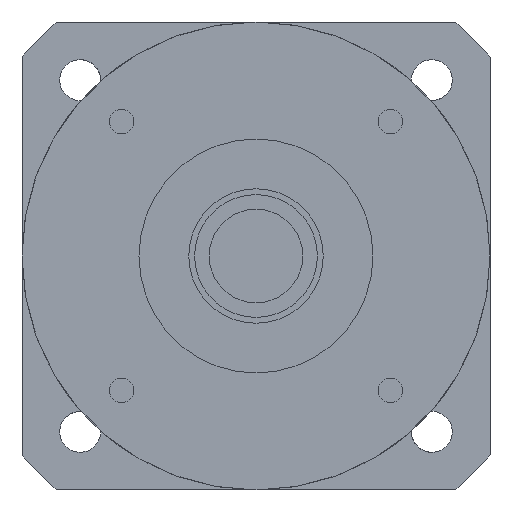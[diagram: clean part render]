
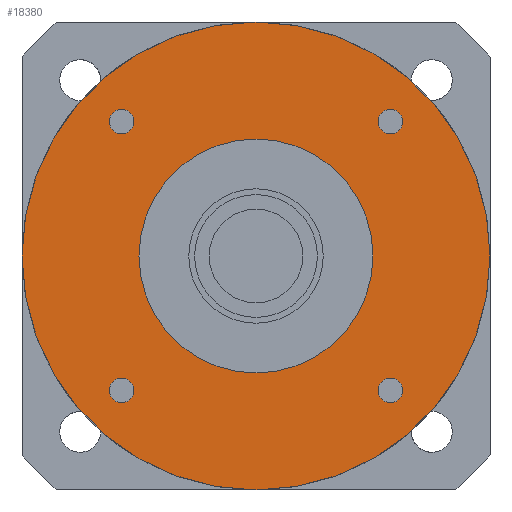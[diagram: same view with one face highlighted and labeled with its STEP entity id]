
A CAD part, left-side view. The second image highlights one B-rep face of the part: STEP entity #18380.
In plain terms, the highlighted planar face has unit normal (-1, 0, 0) as drawn and (0, 0, -1) by its records, which use the part's own axes.
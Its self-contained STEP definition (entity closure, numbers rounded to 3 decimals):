
#14100=CARTESIAN_POINT('',(-25.081,-22.981,-42.));
#14110=VERTEX_POINT('',#14100);
#14290=CARTESIAN_POINT('',(-20.881,-22.981,-42.));
#14300=VERTEX_POINT('',#14290);
#14330=CARTESIAN_POINT('',(-22.981,-22.981,-42.));
#14340=DIRECTION('',(0.,0.,-1.));
#14350=DIRECTION('',(1.,0.,0.));
#14360=AXIS2_PLACEMENT_3D('',#14330,#14340,#14350);
#14370=CIRCLE('',#14360,2.1);
#14380=EDGE_CURVE('',#14110,#14300,#14370,.T.);
#17400=CARTESIAN_POINT('',(-40.,0.,-42.));
#17410=VERTEX_POINT('',#17400);
#17440=CARTESIAN_POINT('',(0.,0.,-42.));
#17450=DIRECTION('',(0.,0.,-1.));
#17460=DIRECTION('',(1.,0.,0.));
#17470=AXIS2_PLACEMENT_3D('',#17440,#17450,#17460);
#17480=CIRCLE('',#17470,40.);
#17490=CARTESIAN_POINT('',(40.,0.,-42.));
#17500=VERTEX_POINT('',#17490);
#17510=EDGE_CURVE('',#17410,#17500,#17480,.T.);
#17630=CARTESIAN_POINT('',(0.,0.,-42.));
#17640=DIRECTION('',(0.,0.,1.));
#17650=DIRECTION('',(1.,0.,0.));
#17660=AXIS2_PLACEMENT_3D('',#17630,#17640,#17650);
#17670=PLANE('',#17660);
#17680=CARTESIAN_POINT('',(-22.981,22.981,-42.));
#17690=DIRECTION('',(0.,0.,-1.));
#17700=DIRECTION('',(1.,0.,0.));
#17710=AXIS2_PLACEMENT_3D('',#17680,#17690,#17700);
#17720=CIRCLE('',#17710,2.1);
#17730=CARTESIAN_POINT('',(-20.881,22.981,-42.));
#17740=VERTEX_POINT('',#17730);
#17750=CARTESIAN_POINT('',(-25.081,22.981,-42.));
#17760=VERTEX_POINT('',#17750);
#17770=EDGE_CURVE('',#17740,#17760,#17720,.T.);
#17780=ORIENTED_EDGE('',*,*,#17770,.F.);
#17790=EDGE_CURVE('',#17760,#17740,#17720,.T.);
#17800=ORIENTED_EDGE('',*,*,#17790,.F.);
#17810=EDGE_LOOP('',(#17800,#17780));
#17820=FACE_BOUND('',#17810,.T.);
#17830=CARTESIAN_POINT('',(22.981,22.981,-42.));
#17840=DIRECTION('',(0.,0.,-1.));
#17850=DIRECTION('',(1.,0.,0.));
#17860=AXIS2_PLACEMENT_3D('',#17830,#17840,#17850);
#17870=CIRCLE('',#17860,2.1);
#17880=CARTESIAN_POINT('',(25.081,22.981,-42.));
#17890=VERTEX_POINT('',#17880);
#17900=CARTESIAN_POINT('',(20.881,22.981,-42.));
#17910=VERTEX_POINT('',#17900);
#17920=EDGE_CURVE('',#17890,#17910,#17870,.T.);
#17930=ORIENTED_EDGE('',*,*,#17920,.F.);
#17940=EDGE_CURVE('',#17910,#17890,#17870,.T.);
#17950=ORIENTED_EDGE('',*,*,#17940,.F.);
#17960=EDGE_LOOP('',(#17950,#17930));
#17970=FACE_BOUND('',#17960,.T.);
#17980=CARTESIAN_POINT('',(22.981,-22.981,-42.));
#17990=DIRECTION('',(0.,0.,-1.));
#18000=DIRECTION('',(1.,0.,0.));
#18010=AXIS2_PLACEMENT_3D('',#17980,#17990,#18000);
#18020=CIRCLE('',#18010,2.1);
#18030=CARTESIAN_POINT('',(25.081,-22.981,-42.));
#18040=VERTEX_POINT('',#18030);
#18050=CARTESIAN_POINT('',(20.881,-22.981,-42.));
#18060=VERTEX_POINT('',#18050);
#18070=EDGE_CURVE('',#18040,#18060,#18020,.T.);
#18080=ORIENTED_EDGE('',*,*,#18070,.F.);
#18090=EDGE_CURVE('',#18060,#18040,#18020,.T.);
#18100=ORIENTED_EDGE('',*,*,#18090,.F.);
#18110=EDGE_LOOP('',(#18100,#18080));
#18120=FACE_BOUND('',#18110,.T.);
#18130=CARTESIAN_POINT('',(0.,0.,
-42.));
#18140=DIRECTION('',(0.,0.,1.));
#18150=DIRECTION('',(-1.,0.,0.));
#18160=AXIS2_PLACEMENT_3D('',#18130,#18140,#18150);
#18170=CIRCLE('',#18160,20.);
#18180=CARTESIAN_POINT('',(-20.,0.,-42.));
#18190=VERTEX_POINT('',#18180);
#18200=CARTESIAN_POINT('',(20.,0.,-42.));
#18210=VERTEX_POINT('',#18200);
#18220=EDGE_CURVE('',#18190,#18210,#18170,.T.);
#18230=ORIENTED_EDGE('',*,*,#18220,.T.);
#18240=EDGE_CURVE('',#18210,#18190,#18170,.T.);
#18250=ORIENTED_EDGE('',*,*,#18240,.T.);
#18260=EDGE_LOOP('',(#18250,#18230));
#18270=FACE_BOUND('',#18260,.T.);
#18280=EDGE_CURVE('',#14300,#14110,#14370,.T.);
#18290=ORIENTED_EDGE('',*,*,#18280,.F.);
#18300=ORIENTED_EDGE('',*,*,#14380,.F.);
#18310=EDGE_LOOP('',(#18300,#18290));
#18320=FACE_BOUND('',#18310,.T.);
#18330=EDGE_CURVE('',#17500,#17410,#17480,.T.);
#18340=ORIENTED_EDGE('',*,*,#18330,.T.);
#18350=ORIENTED_EDGE('',*,*,#17510,.T.);
#18360=EDGE_LOOP('',(#18350,#18340));
#18370=FACE_OUTER_BOUND('',#18360,.T.);
#18380=ADVANCED_FACE('',(#17820,#17970,#18120,#18270,#18320,#18370),
#17670,.F.);
